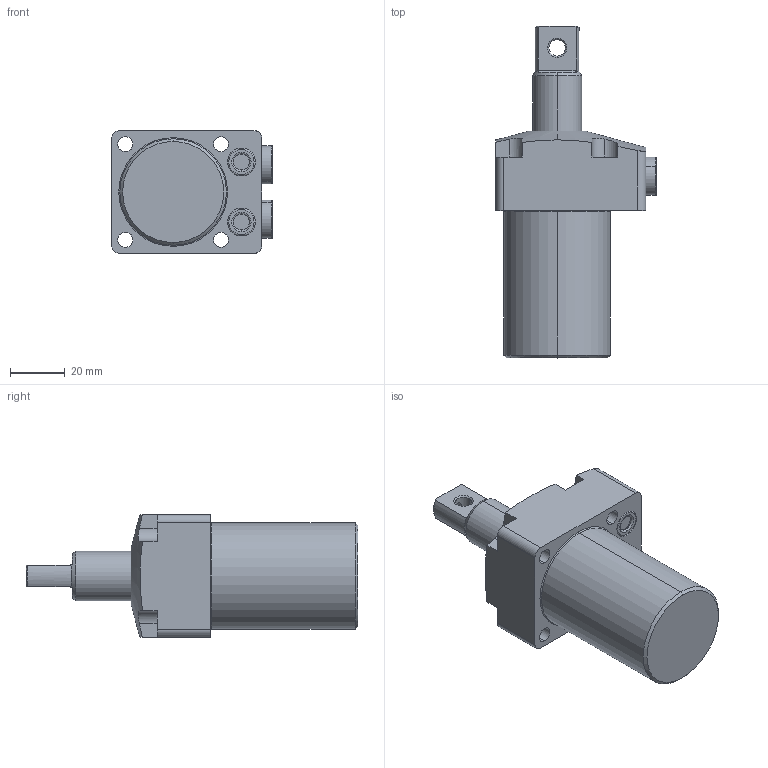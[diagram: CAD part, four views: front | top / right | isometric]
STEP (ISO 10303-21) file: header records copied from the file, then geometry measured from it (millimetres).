
FILE_DESCRIPTION(/* description */ (''),/* implementation_level */ '2;1');
FILE_NAME(/* name */ 'TRC02-P.stp',/* time_stamp */ '2025-01-04T09:15:40+08:00',/* author */ (''),/* organization */ (''),/* preprocessor_version */ 'ST-DEVELOPER v16.7',/* originating_system */ 'SIEMENS PLM Software NX 12.0',/* authorisation */ '');
FILE_SCHEMA (('AUTOMOTIVE_DESIGN { 1 0 10303 214 3 1 1 1 }'));
Length unit declared in the file: millimetre
Products named in the file (4): TRC02-P-02; TRC02-P-03; TRC02-P-01; TRC02-P_stp
Assembly tree (4 placements, depth 2):
  TRC02-P_stp
    TRC02-P-01
    TRC02-P-03
    TRC02-P-02  x2
Bounding box: 58.8 x 121.5 x 45 mm (x, y, z)
Volume: 128800.2 mm3; surface area: 23923.7 mm2
Topology: 4 solids, 6 shells, 171 faces, 389 edges, 242 vertices
Faces by surface type: cylinder 67, plane 56, cone 26, torus 22
Entity records: 4553 total; most frequent: CARTESIAN_POINT 976, DIRECTION 781, ORIENTED_EDGE 686, EDGE_CURVE 343, AXIS2_PLACEMENT_3D 321, VERTEX_POINT 214, EDGE_LOOP 175, CIRCLE 167
